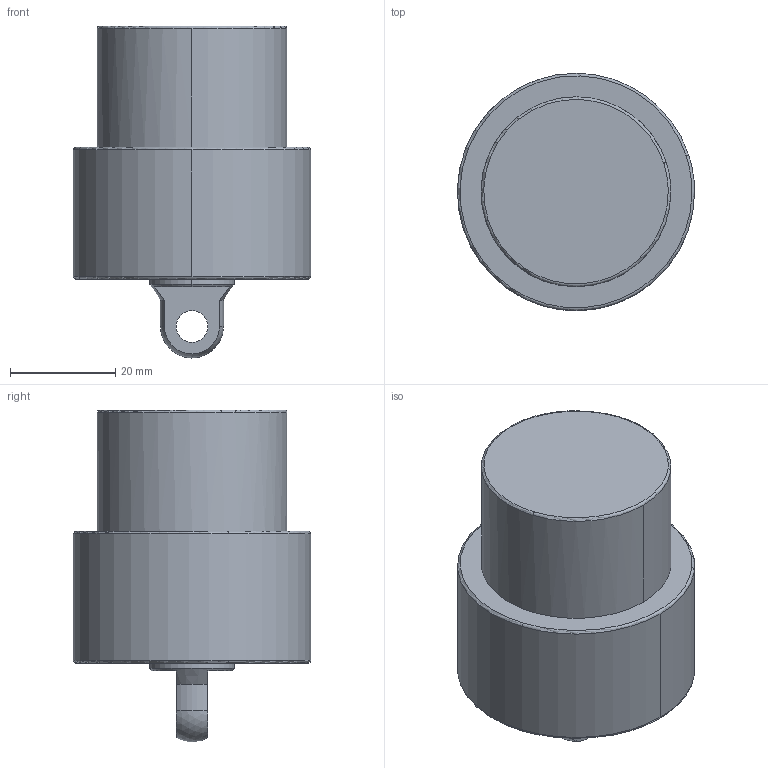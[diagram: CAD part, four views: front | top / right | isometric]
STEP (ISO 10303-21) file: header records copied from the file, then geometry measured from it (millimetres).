
FILE_DESCRIPTION((' '),'2;1');
FILE_NAME( 'TLLU-036GP-015.STEP.stp', '2025-10-24T16:37:08', (' '), ('--- Datakit www.datakit.com---'), ' Datakit CrossCadWare V2024.1 Dec 21 2023', 'Mastercam 2025', ' ');
FILE_SCHEMA(('AUTOMOTIVE_DESIGN { 1 0 10303 214 1 1 1 1 }'));
Length unit declared in the file: millimetre
Products named in the file (1): TLLU-036GP-015
Bounding box: 44.99 x 45 x 62.97 mm (x, y, z)
Volume: 63524.1 mm3; surface area: 10305.3 mm2
Topology: 1 solids, 1 shells, 56 faces, 159 edges, 105 vertices
Faces by surface type: cylinder 22, cone 18, plane 9, torus 6, sphere 1
Entity records: 1872 total; most frequent: DIRECTION 364, CARTESIAN_POINT 325, ORIENTED_EDGE 302, AXIS2_PLACEMENT_3D 160, EDGE_CURVE 151, VERTEX_POINT 105, CIRCLE 103, EDGE_LOOP 66
